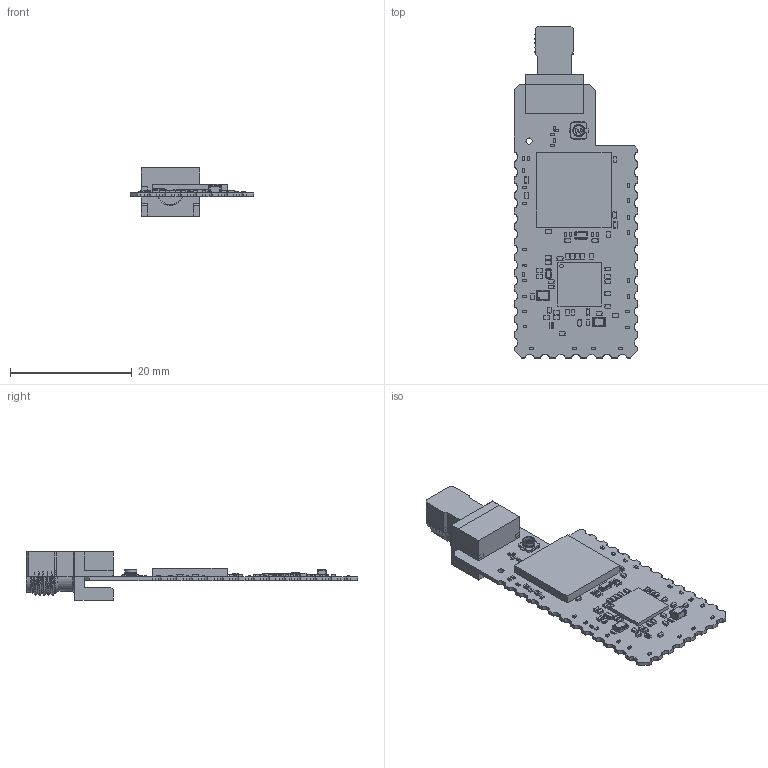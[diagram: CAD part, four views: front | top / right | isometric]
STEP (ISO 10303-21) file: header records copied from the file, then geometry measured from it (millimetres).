
FILE_DESCRIPTION(('Open CASCADE Model'),'2;1');
FILE_NAME('Open CASCADE Shape Model','2025-04-18T14:05:38',('Author'),( 'Open CASCADE'),'Open CASCADE STEP processor 7.5','Open CASCADE 7.5' ,'Unknown');
FILE_SCHEMA(('AUTOMOTIVE_DESIGN { 1 0 10303 214 1 1 1 1 }'));
Length unit declared in the file: millimetre
Products named in the file (127): PCB; Board; Open CASCADE STEP translator 7.5 3.1.1; CN4; SMA_CINCH-JOHN_142-0701-851; 7097420576; Extruded; R49; res0201-H0P23; 7097421216; R39; 7097420816; R38; R37; R36; R34; CN6; U.FL-R-SMT-1; U2; 7117640800; R33; R0402; 7117640640; C46; C0402; R32; R31; R30; R29; R28; R27; R26; R23; R22; R21; R20; R19; R17; R16; R15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
Assembly tree (264 placements, depth 4):
  PCB
    Board
      Open CASCADE STEP translator 7.5 3.1.1
    CN4
      SMA_CINCH-JOHN_142-0701-851
      7097420576
        Extruded
    R49
      res0201-H0P23
      7097421216
        Extruded
    R39
      res0201-H0P23
      7097420816
        Extruded
    R38
      res0201-H0P23
      7097420816
        Extruded
    R37
      res0201-H0P23
      7097420816
        Extruded
    R36
      res0201-H0P23
      7097421216
        Extruded
    R34
      res0201-H0P23
      7097421216
        Extruded
    CN6
      U.FL-R-SMT-1
    U2
      7117640800
        Extruded
    R33
      R0402
      7117640640
        Extruded
    C46
      C0402
      7117640640
        Extruded
    R32
      res0201-H0P23
      7097421216
        Extruded
    R31
      res0201-H0P23
      7097421216
        Extruded
    R30
      R0402
      7117640640
        Extruded
    R29
      R0402
      7117640640
        Extruded
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Bounding box: 20.32 x 54.46 x 7.92 mm (x, y, z)
Volume: 1554.7 mm3; surface area: 3516.2 mm2
Topology: 171 solids, 177 shells, 6414 faces, 15080 edges, 8899 vertices
Faces by surface type: plane 3188, cylinder 1707, bspline 959, revolution 290, sphere 220, torus 36, cone 14
Full cylindrical faces by diameter (mm): 0.6 x1, 0.991 x1, 1 x1, 4.674 x1, 5.08 x1, 5.385 x1
Entity records: 39585 total; most frequent: CARTESIAN_POINT 10076, DIRECTION 5288, ORIENTED_EDGE 4920, EDGE_CURVE 2461, AXIS2_PLACEMENT_3D 1781, LINE 1716, VECTOR 1716, VERTEX_POINT 1531
